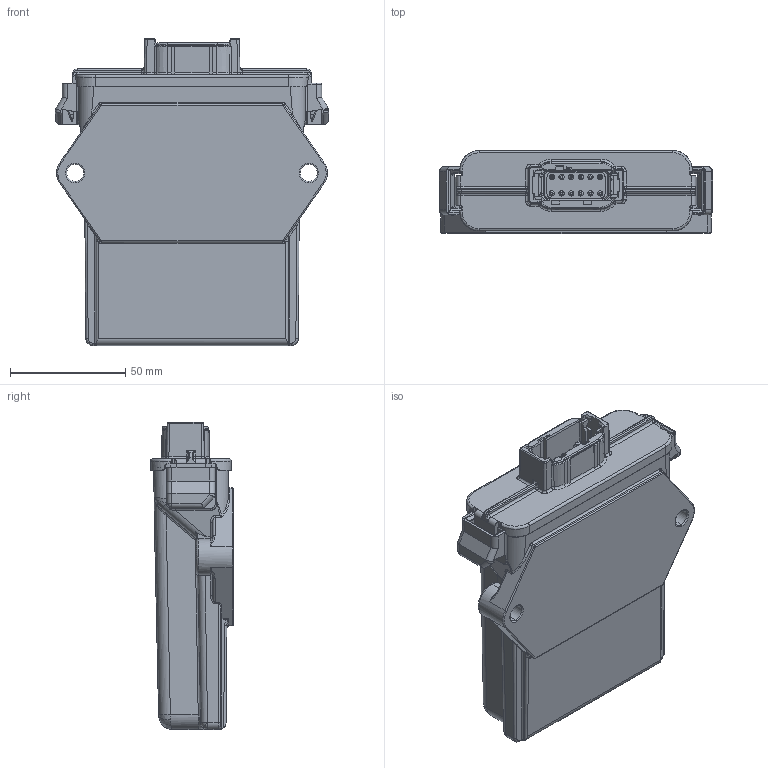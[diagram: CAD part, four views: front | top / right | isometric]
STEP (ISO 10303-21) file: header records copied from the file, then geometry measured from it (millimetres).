
FILE_DESCRIPTION (( 'STEP AP214' ), '1' );
FILE_NAME ('Assem2.STEP', '2019-05-10T16:14:00', ( '' ), ( '' ), 'SwSTEP 2.0', 'SolidWorks 2014', '' );
FILE_SCHEMA (( 'AUTOMOTIVE_DESIGN' ));
Length unit declared in the file: millimetre
Products named in the file (7): connector; box; Assem2; Part3^Assem2
Assembly tree (3 placements, depth 2):
  connector
  box
  Assem2
    box
    connector
    Part3^Assem2
  Part3^Assem2
Bounding box: 118.75 x 35.99 x 133.45 mm (x, y, z)
Volume: 170596.9 mm3; surface area: 100591.9 mm2
Topology: 3 solids, 3 shells, 1474 faces, 3789 edges, 2298 vertices
Faces by surface type: cylinder 555, plane 517, bspline 330, cone 63, torus 9
Entity records: 71072 total; most frequent: CARTESIAN_POINT 28143, ORIENTED_EDGE 7482, DIRECTION 5382, EDGE_CURVE 3741, VERTEX_POINT 2298, AXIS2_PLACEMENT_3D 1801, VECTOR 1780, LINE 1780
